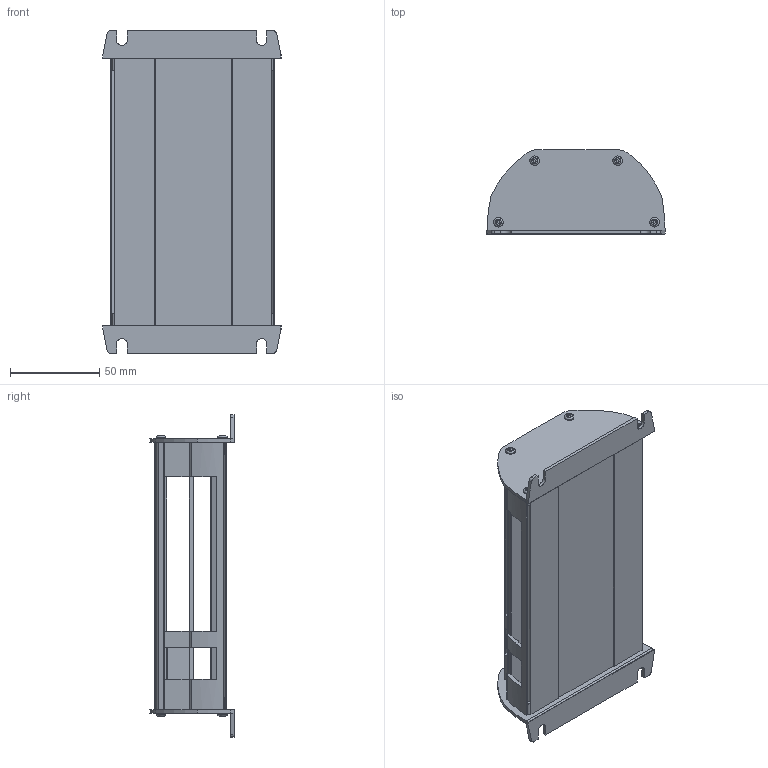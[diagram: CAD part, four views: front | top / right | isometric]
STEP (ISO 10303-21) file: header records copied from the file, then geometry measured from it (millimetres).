
FILE_DESCRIPTION(('FreeCAD Model'),'2;1');
FILE_NAME('C:/Users/rudy.gunawan/Documents/This PC/dataTaker/Support Files/3D CAD/CEM20.stp','2018-03-09T14:28:05',('Author'),(''), 'Open CASCADE STEP processor 6.8','FreeCAD','Unknown');
FILE_SCHEMA(('AUTOMOTIVE_DESIGN_CC2 { 1 2 10303 214 -1 1 5 4 }'));
Length unit declared in the file: millimetre
Products named in the file (1): Fusion062
Bounding box: 100.1 x 47.3 x 181.21 mm (x, y, z)
Volume: 73481.9 mm3; surface area: 94120.8 mm2
Topology: 10 solids, 10 shells, 475 faces, 1281 edges, 810 vertices
Faces by surface type: plane 354, cylinder 105, torus 16
Full cylindrical faces by diameter (mm): 2.4 x8, 3.2 x8, 5.4 x8
Entity records: 32146 total; most frequent: CARTESIAN_POINT 6931, DIRECTION 4613, LINE 2921, VECTOR 2921, ORIENTED_EDGE 2562, PCURVE 2562, DEFINITIONAL_REPRESENTATION 2562, EDGE_CURVE 1281
